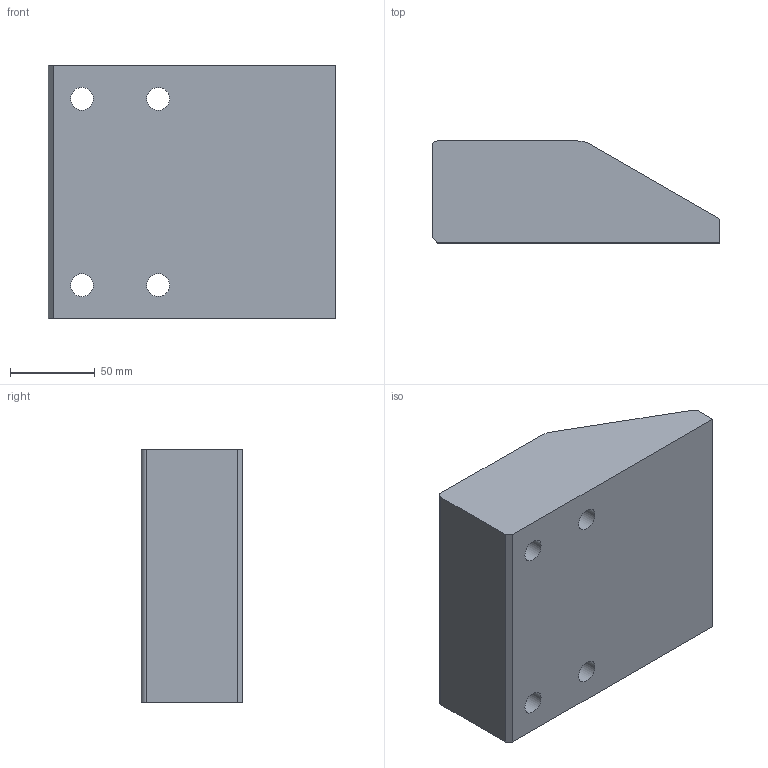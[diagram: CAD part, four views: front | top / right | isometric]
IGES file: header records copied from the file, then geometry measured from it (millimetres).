
Start section: Data from Parasolid IGES Translator 20.0.26, Copyright(c) 2006 Siemens P LM Software. All Rights Reserved.
Global section: file name: G228-01-15017060.igs; native system: By Siemens PLM Incorporated; preprocessor: XPlus GENERIC/IGES 20.0.26; author: Noname; organization: Noname; date: 20190710.094638; units: millimetre
Bounding box: 170 x 60 x 150 mm (x, y, z)
Surface area: 92485.5 mm2 (no closed solid volume)
Topology: 0 solids, 0 shells, 27 faces, 118 edges, 98 vertices
Faces by surface type: revolution 15, extrusion 12
